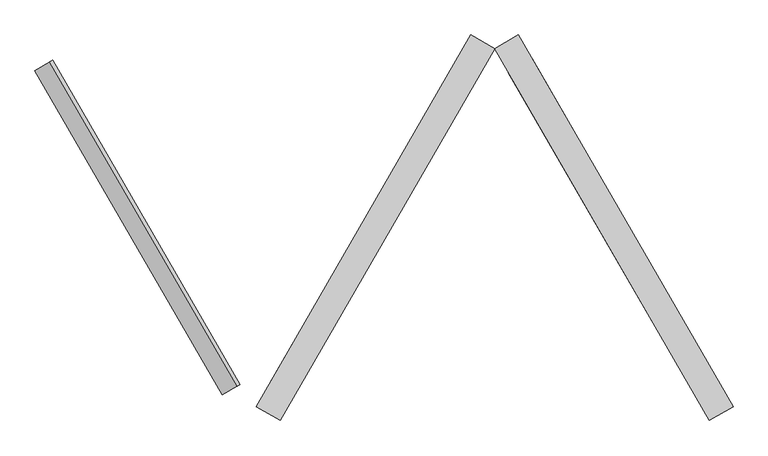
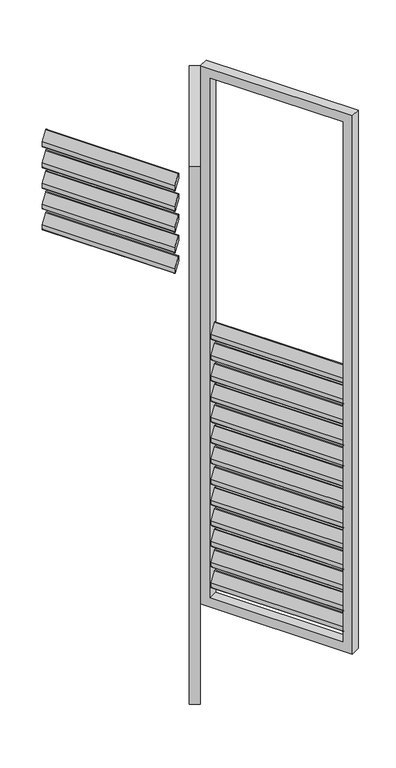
"""IFC4 building model written with IfcOpenShell, lengths in millimetres: proxy geometry, Renson_Amani_Loggia_Paro_Aluminium_Folding : Renson_Amani_Loggia_Paro_Aluminium_Folding."""

from ifc_helpers import new_model, si_unit, point, frame, frame_2d, origin, place, context, project, spatial, polyline, circle_curve, trimmed, segment, composite_curve, outline, extrude, source, transform, mapped, element, save


def generic_models_d351d88b(model_context):
    return source(origin(), model_context, "Body", "SweptSolid", [
        extrude(outline(composite_curve([segment(polyline([(-44.0658831, 0.0), (0.8886405, 0.0), (17.0325667, -10.4839883)]), True, "CONTINUOUS"), segment(trimmed(circle_curve(frame_2d((15.3986496, -13.0)), 3.0), [point((17.0325667, -10.4839883))], [point((15.3986496, -16.0))], False, "CARTESIAN"), True, "CONTINUOUS"), segment(polyline([(15.3986496, -16.0), (-28.6672334, -16.0)]), True, "CONTINUOUS"), segment(trimmed(circle_curve(frame_2d((-28.6672334, -13.0)), 3.0), [point((-28.6672334, -16.0))], [point((-30.3011505, -15.5160117))], False, "CARTESIAN"), True, "CONTINUOUS"), segment(polyline([(-30.3011505, -15.5160117), (-45.6998002, -5.5160117)]), True, "CONTINUOUS"), segment(trimmed(circle_curve(frame_2d((-44.0658831, -3.0)), 3.0), [point((-45.6998002, -5.5160117))], [point((-44.0658831, 0.0))], False, "CARTESIAN"), True, "CONTINUOUS")], self_intersect=False)), frame((992.1094572, 37.7168064, 1227.3359298), z_axis=(-0.5000000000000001, 0.8660254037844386, 0.0), x_axis=(-0.47167124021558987, -0.2723195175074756, -0.8386705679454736)), (0.0, 0.0, 1.0), 545.0),
        extrude(outline(composite_curve([segment(polyline([(-44.0658831, 0.0), (0.8886405, 0.0), (17.0325667, -10.4839883)]), True, "CONTINUOUS"), segment(trimmed(circle_curve(frame_2d((15.3986496, -13.0)), 3.0), [point((17.0325667, -10.4839883))], [point((15.3986496, -16.0))], False, "CARTESIAN"), True, "CONTINUOUS"), segment(polyline([(15.3986496, -16.0), (-28.6672334, -16.0)]), True, "CONTINUOUS"), segment(trimmed(circle_curve(frame_2d((-28.6672334, -13.0)), 3.0), [point((-28.6672334, -16.0))], [point((-30.3011505, -15.5160117))], False, "CARTESIAN"), True, "CONTINUOUS"), segment(polyline([(-30.3011505, -15.5160117), (-45.6998002, -5.5160117)]), True, "CONTINUOUS"), segment(trimmed(circle_curve(frame_2d((-44.0658831, -3.0)), 3.0), [point((-45.6998002, -5.5160117))], [point((-44.0658831, 0.0))], False, "CARTESIAN"), True, "CONTINUOUS")], self_intersect=False)), frame((992.1094572, 37.7168064, 1137.3359298), z_axis=(-0.5000000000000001, 0.8660254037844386, 0.0), x_axis=(-0.47167124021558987, -0.2723195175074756, -0.8386705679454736)), (0.0, 0.0, 1.0), 545.0),
        extrude(outline(composite_curve([segment(polyline([(-44.0658831, 0.0), (0.8886405, 0.0), (17.0325667, -10.4839883)]), True, "CONTINUOUS"), segment(trimmed(circle_curve(frame_2d((15.3986496, -13.0)), 3.0), [point((17.0325667, -10.4839883))], [point((15.3986496, -16.0))], False, "CARTESIAN"), True, "CONTINUOUS"), segment(polyline([(15.3986496, -16.0), (-28.6672334, -16.0)]), True, "CONTINUOUS"), segment(trimmed(circle_curve(frame_2d((-28.6672334, -13.0)), 3.0), [point((-28.6672334, -16.0))], [point((-30.3011505, -15.5160117))], False, "CARTESIAN"), True, "CONTINUOUS"), segment(polyline([(-30.3011505, -15.5160117), (-45.6998002, -5.5160117)]), True, "CONTINUOUS"), segment(trimmed(circle_curve(frame_2d((-44.0658831, -3.0)), 3.0), [point((-45.6998002, -5.5160117))], [point((-44.0658831, 0.0))], False, "CARTESIAN"), True, "CONTINUOUS")], self_intersect=False)), frame((992.1094572, 37.7168064, 1047.3359298), z_axis=(-0.5000000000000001, 0.8660254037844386, 0.0), x_axis=(-0.47167124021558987, -0.2723195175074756, -0.8386705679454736)), (0.0, 0.0, 1.0), 545.0),
        extrude(outline(composite_curve([segment(polyline([(-44.0658831, 0.0), (0.8886405, 0.0), (17.0325667, -10.4839883)]), True, "CONTINUOUS"), segment(trimmed(circle_curve(frame_2d((15.3986496, -13.0)), 3.0), [point((17.0325667, -10.4839883))], [point((15.3986496, -16.0))], False, "CARTESIAN"), True, "CONTINUOUS"), segment(polyline([(15.3986496, -16.0), (-28.6672334, -16.0)]), True, "CONTINUOUS"), segment(trimmed(circle_curve(frame_2d((-28.6672334, -13.0)), 3.0), [point((-28.6672334, -16.0))], [point((-30.3011505, -15.5160117))], False, "CARTESIAN"), True, "CONTINUOUS"), segment(polyline([(-30.3011505, -15.5160117), (-45.6998002, -5.5160117)]), True, "CONTINUOUS"), segment(trimmed(circle_curve(frame_2d((-44.0658831, -3.0)), 3.0), [point((-45.6998002, -5.5160117))], [point((-44.0658831, 0.0))], False, "CARTESIAN"), True, "CONTINUOUS")], self_intersect=False)), frame((992.1094572, 37.7168064, 957.3359298), z_axis=(-0.5000000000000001, 0.8660254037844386, 0.0), x_axis=(-0.47167124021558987, -0.2723195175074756, -0.8386705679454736)), (0.0, 0.0, 1.0), 545.0),
        extrude(outline(composite_curve([segment(polyline([(-44.0658831, 0.0), (0.8886405, 0.0), (17.0325667, -10.4839883)]), True, "CONTINUOUS"), segment(trimmed(circle_curve(frame_2d((15.3986496, -13.0)), 3.0), [point((17.0325667, -10.4839883))], [point((15.3986496, -16.0))], False, "CARTESIAN"), True, "CONTINUOUS"), segment(polyline([(15.3986496, -16.0), (-28.6672334, -16.0)]), True, "CONTINUOUS"), segment(trimmed(circle_curve(frame_2d((-28.6672334, -13.0)), 3.0), [point((-28.6672334, -16.0))], [point((-30.3011505, -15.5160117))], False, "CARTESIAN"), True, "CONTINUOUS"), segment(polyline([(-30.3011505, -15.5160117), (-45.6998002, -5.5160117)]), True, "CONTINUOUS"), segment(trimmed(circle_curve(frame_2d((-44.0658831, -3.0)), 3.0), [point((-45.6998002, -5.5160117))], [point((-44.0658831, 0.0))], False, "CARTESIAN"), True, "CONTINUOUS")], self_intersect=False)), frame((992.1094572, 37.7168064, 867.3359298), z_axis=(-0.5000000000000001, 0.8660254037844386, 0.0), x_axis=(-0.47167124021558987, -0.2723195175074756, -0.8386705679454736)), (0.0, 0.0, 1.0), 545.0),
        extrude(outline(composite_curve([segment(polyline([(-44.0658831, 0.0), (0.8886405, 0.0), (17.0325667, -10.4839883)]), True, "CONTINUOUS"), segment(trimmed(circle_curve(frame_2d((15.3986496, -13.0)), 3.0), [point((17.0325667, -10.4839883))], [point((15.3986496, -16.0))], False, "CARTESIAN"), True, "CONTINUOUS"), segment(polyline([(15.3986496, -16.0), (-28.6672334, -16.0)]), True, "CONTINUOUS"), segment(trimmed(circle_curve(frame_2d((-28.6672334, -13.0)), 3.0), [point((-28.6672334, -16.0))], [point((-30.3011505, -15.5160117))], False, "CARTESIAN"), True, "CONTINUOUS"), segment(polyline([(-30.3011505, -15.5160117), (-45.6998002, -5.5160117)]), True, "CONTINUOUS"), segment(trimmed(circle_curve(frame_2d((-44.0658831, -3.0)), 3.0), [point((-45.6998002, -5.5160117))], [point((-44.0658831, 0.0))], False, "CARTESIAN"), True, "CONTINUOUS")], self_intersect=False)), frame((992.1094572, 37.7168064, 777.3359298), z_axis=(-0.5000000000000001, 0.8660254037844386, 0.0), x_axis=(-0.47167124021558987, -0.2723195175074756, -0.8386705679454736)), (0.0, 0.0, 1.0), 545.0),
        extrude(outline(composite_curve([segment(polyline([(-44.0658831, 0.0), (0.8886405, 0.0), (17.0325667, -10.4839883)]), True, "CONTINUOUS"), segment(trimmed(circle_curve(frame_2d((15.3986496, -13.0)), 3.0), [point((17.0325667, -10.4839883))], [point((15.3986496, -16.0))], False, "CARTESIAN"), True, "CONTINUOUS"), segment(polyline([(15.3986496, -16.0), (-28.6672334, -16.0)]), True, "CONTINUOUS"), segment(trimmed(circle_curve(frame_2d((-28.6672334, -13.0)), 3.0), [point((-28.6672334, -16.0))], [point((-30.3011505, -15.5160117))], False, "CARTESIAN"), True, "CONTINUOUS"), segment(polyline([(-30.3011505, -15.5160117), (-45.6998002, -5.5160117)]), True, "CONTINUOUS"), segment(trimmed(circle_curve(frame_2d((-44.0658831, -3.0)), 3.0), [point((-45.6998002, -5.5160117))], [point((-44.0658831, 0.0))], False, "CARTESIAN"), True, "CONTINUOUS")], self_intersect=False)), frame((992.1094572, 37.7168064, 687.3359298), z_axis=(-0.5000000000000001, 0.8660254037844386, 0.0), x_axis=(-0.47167124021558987, -0.2723195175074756, -0.8386705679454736)), (0.0, 0.0, 1.0), 545.0),
        extrude(outline(composite_curve([segment(polyline([(-44.0658831, 0.0), (0.8886405, 0.0), (17.0325667, -10.4839883)]), True, "CONTINUOUS"), segment(trimmed(circle_curve(frame_2d((15.3986496, -13.0)), 3.0), [point((17.0325667, -10.4839883))], [point((15.3986496, -16.0))], False, "CARTESIAN"), True, "CONTINUOUS"), segment(polyline([(15.3986496, -16.0), (-28.6672334, -16.0)]), True, "CONTINUOUS"), segment(trimmed(circle_curve(frame_2d((-28.6672334, -13.0)), 3.0), [point((-28.6672334, -16.0))], [point((-30.3011505, -15.5160117))], False, "CARTESIAN"), True, "CONTINUOUS"), segment(polyline([(-30.3011505, -15.5160117), (-45.6998002, -5.5160117)]), True, "CONTINUOUS"), segment(trimmed(circle_curve(frame_2d((-44.0658831, -3.0)), 3.0), [point((-45.6998002, -5.5160117))], [point((-44.0658831, 0.0))], False, "CARTESIAN"), True, "CONTINUOUS")], self_intersect=False)), frame((992.1094572, 37.7168064, 597.3359298), z_axis=(-0.5000000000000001, 0.8660254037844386, 0.0), x_axis=(-0.47167124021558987, -0.2723195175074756, -0.8386705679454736)), (0.0, 0.0, 1.0), 545.0),
        extrude(outline(composite_curve([segment(polyline([(-44.0658831, 0.0), (0.8886405, 0.0), (17.0325667, -10.4839883)]), True, "CONTINUOUS"), segment(trimmed(circle_curve(frame_2d((15.3986496, -13.0)), 3.0), [point((17.0325667, -10.4839883))], [point((15.3986496, -16.0))], False, "CARTESIAN"), True, "CONTINUOUS"), segment(polyline([(15.3986496, -16.0), (-28.6672334, -16.0)]), True, "CONTINUOUS"), segment(trimmed(circle_curve(frame_2d((-28.6672334, -13.0)), 3.0), [point((-28.6672334, -16.0))], [point((-30.3011505, -15.5160117))], False, "CARTESIAN"), True, "CONTINUOUS"), segment(polyline([(-30.3011505, -15.5160117), (-45.6998002, -5.5160117)]), True, "CONTINUOUS"), segment(trimmed(circle_curve(frame_2d((-44.0658831, -3.0)), 3.0), [point((-45.6998002, -5.5160117))], [point((-44.0658831, 0.0))], False, "CARTESIAN"), True, "CONTINUOUS")], self_intersect=False)), frame((992.1094572, 37.7168064, 507.3359298), z_axis=(-0.5000000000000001, 0.8660254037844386, 0.0), x_axis=(-0.47167124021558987, -0.2723195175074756, -0.8386705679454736)), (0.0, 0.0, 1.0), 545.0),
        extrude(outline(composite_curve([segment(polyline([(-44.0658831, 0.0), (0.8886405, 0.0), (17.0325667, -10.4839883)]), True, "CONTINUOUS"), segment(trimmed(circle_curve(frame_2d((15.3986496, -13.0)), 3.0), [point((17.0325667, -10.4839883))], [point((15.3986496, -16.0))], False, "CARTESIAN"), True, "CONTINUOUS"), segment(polyline([(15.3986496, -16.0), (-28.6672334, -16.0)]), True, "CONTINUOUS"), segment(trimmed(circle_curve(frame_2d((-28.6672334, -13.0)), 3.0), [point((-28.6672334, -16.0))], [point((-30.3011505, -15.5160117))], False, "CARTESIAN"), True, "CONTINUOUS"), segment(polyline([(-30.3011505, -15.5160117), (-45.6998002, -5.5160117)]), True, "CONTINUOUS"), segment(trimmed(circle_curve(frame_2d((-44.0658831, -3.0)), 3.0), [point((-45.6998002, -5.5160117))], [point((-44.0658831, 0.0))], False, "CARTESIAN"), True, "CONTINUOUS")], self_intersect=False)), frame((992.1094572, 37.7168064, 417.3359298), z_axis=(-0.5000000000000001, 0.8660254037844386, 0.0), x_axis=(-0.47167124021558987, -0.2723195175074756, -0.8386705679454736)), (0.0, 0.0, 1.0), 545.0),
        extrude(outline(composite_curve([segment(polyline([(-44.0658831, 0.0), (0.8886405, 0.0), (17.0325667, -10.4839883)]), True, "CONTINUOUS"), segment(trimmed(circle_curve(frame_2d((15.3986496, -13.0)), 3.0), [point((17.0325667, -10.4839883))], [point((15.3986496, -16.0))], False, "CARTESIAN"), True, "CONTINUOUS"), segment(polyline([(15.3986496, -16.0), (-28.6672334, -16.0)]), True, "CONTINUOUS"), segment(trimmed(circle_curve(frame_2d((-28.6672334, -13.0)), 3.0), [point((-28.6672334, -16.0))], [point((-30.3011505, -15.5160117))], False, "CARTESIAN"), True, "CONTINUOUS"), segment(polyline([(-30.3011505, -15.5160117), (-45.6998002, -5.5160117)]), True, "CONTINUOUS"), segment(trimmed(circle_curve(frame_2d((-44.0658831, -3.0)), 3.0), [point((-45.6998002, -5.5160117))], [point((-44.0658831, 0.0))], False, "CARTESIAN"), True, "CONTINUOUS")], self_intersect=False)), frame((992.1094572, 37.7168064, 327.3359298), z_axis=(-0.5000000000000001, 0.8660254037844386, 0.0), x_axis=(-0.47167124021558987, -0.2723195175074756, -0.8386705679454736)), (0.0, 0.0, 1.0), 545.0),
        extrude(outline(composite_curve([segment(polyline([(-44.0658831, 0.0), (0.8886405, 0.0), (17.0325667, -10.4839883)]), True, "CONTINUOUS"), segment(trimmed(circle_curve(frame_2d((15.3986496, -13.0)), 3.0), [point((17.0325667, -10.4839883))], [point((15.3986496, -16.0))], False, "CARTESIAN"), True, "CONTINUOUS"), segment(polyline([(15.3986496, -16.0), (-28.6672334, -16.0)]), True, "CONTINUOUS"), segment(trimmed(circle_curve(frame_2d((-28.6672334, -13.0)), 3.0), [point((-28.6672334, -16.0))], [point((-30.3011505, -15.5160117))], False, "CARTESIAN"), True, "CONTINUOUS"), segment(polyline([(-30.3011505, -15.5160117), (-45.6998002, -5.5160117)]), True, "CONTINUOUS"), segment(trimmed(circle_curve(frame_2d((-44.0658831, -3.0)), 3.0), [point((-45.6998002, -5.5160117))], [point((-44.0658831, 0.0))], False, "CARTESIAN"), True, "CONTINUOUS")], self_intersect=False)), frame((992.1094572, 37.7168064, 237.3359298), z_axis=(-0.5000000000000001, 0.8660254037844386, 0.0), x_axis=(-0.47167124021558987, -0.2723195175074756, -0.8386705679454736)), (0.0, 0.0, 1.0), 545.0),
        extrude(outline(composite_curve([segment(polyline([(-44.0658831, 0.0), (0.8886405, 0.0), (17.0325667, -10.4839883)]), True, "CONTINUOUS"), segment(trimmed(circle_curve(frame_2d((15.3986496, -13.0)), 3.0), [point((17.0325667, -10.4839883))], [point((15.3986496, -16.0))], False, "CARTESIAN"), True, "CONTINUOUS"), segment(polyline([(15.3986496, -16.0), (-28.6672334, -16.0)]), True, "CONTINUOUS"), segment(trimmed(circle_curve(frame_2d((-28.6672334, -13.0)), 3.0), [point((-28.6672334, -16.0))], [point((-30.3011505, -15.5160117))], False, "CARTESIAN"), True, "CONTINUOUS"), segment(polyline([(-30.3011505, -15.5160117), (-45.6998002, -5.5160117)]), True, "CONTINUOUS"), segment(trimmed(circle_curve(frame_2d((-44.0658831, -3.0)), 3.0), [point((-45.6998002, -5.5160117))], [point((-44.0658831, 0.0))], False, "CARTESIAN"), True, "CONTINUOUS")], self_intersect=False)), frame((992.1094572, 37.7168064, 147.3359298), z_axis=(-0.5000000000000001, 0.8660254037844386, 0.0), x_axis=(-0.47167124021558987, -0.2723195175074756, -0.8386705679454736)), (0.0, 0.0, 1.0), 545.0),
        extrude(outline(polyline([(2300.0, -40.0), (-40.0, -40.0), (-40.0, 585.0), (2300.0, 585.0), (2300.0, -40.0)]), holes=[polyline([(2260.0, 544.9999999), (0.0, 544.9999999), (0.0, 0.0), (2260.0, 0.0), (2260.0, 544.9999999)])]), frame((714.2820323, 506.6248612, 85.0), z_axis=(0.8660254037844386, 0.5000000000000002, 0.0), x_axis=(0.0, 0.0, 1.0)), (0.0, 0.0, 1.0), 40.0),
        extrude(outline(composite_curve([segment(trimmed(circle_curve(frame_2d((44.0658831, -3.0)), 3.0), [point((44.0658831, 0.0))], [point((45.6998002, -5.5160117))], False, "CARTESIAN"), True, "CONTINUOUS"), segment(polyline([(45.6998002, -5.5160117), (30.3011505, -15.5160117)]), True, "CONTINUOUS"), segment(trimmed(circle_curve(frame_2d((28.6672334, -13.0)), 3.0), [point((30.3011505, -15.5160117))], [point((28.6672334, -16.0))], False, "CARTESIAN"), True, "CONTINUOUS"), segment(polyline([(28.6672334, -16.0), (-15.3986496, -16.0)]), True, "CONTINUOUS"), segment(trimmed(circle_curve(frame_2d((-15.3986496, -13.0)), 3.0), [point((-15.3986496, -16.0))], [point((-17.0325667, -10.4839883))], False, "CARTESIAN"), True, "CONTINUOUS"), segment(polyline([(-17.0325667, -10.4839883), (-0.8886405, 0.0), (44.0658831, 0.0)]), True, "CONTINUOUS")], self_intersect=False)), frame((396.4546074, 37.7168064, 2307.3359298), z_axis=(0.5000000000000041, 0.8660254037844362, 0.0), x_axis=(-0.47167124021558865, 0.2723195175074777, 0.8386705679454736)), (0.0, 0.0, 1.0), 545.0),
        extrude(outline(composite_curve([segment(trimmed(circle_curve(frame_2d((44.0658831, -3.0)), 3.0), [point((44.0658831, 0.0))], [point((45.6998002, -5.5160117))], False, "CARTESIAN"), True, "CONTINUOUS"), segment(polyline([(45.6998002, -5.5160117), (30.3011505, -15.5160117)]), True, "CONTINUOUS"), segment(trimmed(circle_curve(frame_2d((28.6672334, -13.0)), 3.0), [point((30.3011505, -15.5160117))], [point((28.6672334, -16.0))], False, "CARTESIAN"), True, "CONTINUOUS"), segment(polyline([(28.6672334, -16.0), (-15.3986496, -16.0)]), True, "CONTINUOUS"), segment(trimmed(circle_curve(frame_2d((-15.3986496, -13.0)), 3.0), [point((-15.3986496, -16.0))], [point((-17.0325667, -10.4839883))], False, "CARTESIAN"), True, "CONTINUOUS"), segment(polyline([(-17.0325667, -10.4839883), (-0.8886405, 0.0), (44.0658831, 0.0)]), True, "CONTINUOUS")], self_intersect=False)), frame((396.4546074, 37.7168064, 2217.3359298), z_axis=(0.5000000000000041, 0.8660254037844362, 0.0), x_axis=(-0.47167124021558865, 0.2723195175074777, 0.8386705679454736)), (0.0, 0.0, 1.0), 545.0),
        extrude(outline(composite_curve([segment(trimmed(circle_curve(frame_2d((44.0658831, -3.0)), 3.0), [point((44.0658831, 0.0))], [point((45.6998002, -5.5160117))], False, "CARTESIAN"), True, "CONTINUOUS"), segment(polyline([(45.6998002, -5.5160117), (30.3011505, -15.5160117)]), True, "CONTINUOUS"), segment(trimmed(circle_curve(frame_2d((28.6672334, -13.0)), 3.0), [point((30.3011505, -15.5160117))], [point((28.6672334, -16.0))], False, "CARTESIAN"), True, "CONTINUOUS"), segment(polyline([(28.6672334, -16.0), (-15.3986496, -16.0)]), True, "CONTINUOUS"), segment(trimmed(circle_curve(frame_2d((-15.3986496, -13.0)), 3.0), [point((-15.3986496, -16.0))], [point((-17.0325667, -10.4839883))], False, "CARTESIAN"), True, "CONTINUOUS"), segment(polyline([(-17.0325667, -10.4839883), (-0.8886405, 0.0), (44.0658831, 0.0)]), True, "CONTINUOUS")], self_intersect=False)), frame((396.4546074, 37.7168064, 2127.3359298), z_axis=(0.5000000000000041, 0.8660254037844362, 0.0), x_axis=(-0.47167124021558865, 0.2723195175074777, 0.8386705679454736)), (0.0, 0.0, 1.0), 545.0),
        extrude(outline(composite_curve([segment(trimmed(circle_curve(frame_2d((44.0658831, -3.0)), 3.0), [point((44.0658831, 0.0))], [point((45.6998002, -5.5160117))], False, "CARTESIAN"), True, "CONTINUOUS"), segment(polyline([(45.6998002, -5.5160117), (30.3011505, -15.5160117)]), True, "CONTINUOUS"), segment(trimmed(circle_curve(frame_2d((28.6672334, -13.0)), 3.0), [point((30.3011505, -15.5160117))], [point((28.6672334, -16.0))], False, "CARTESIAN"), True, "CONTINUOUS"), segment(polyline([(28.6672334, -16.0), (-15.3986496, -16.0)]), True, "CONTINUOUS"), segment(trimmed(circle_curve(frame_2d((-15.3986496, -13.0)), 3.0), [point((-15.3986496, -16.0))], [point((-17.0325667, -10.4839883))], False, "CARTESIAN"), True, "CONTINUOUS"), segment(polyline([(-17.0325667, -10.4839883), (-0.8886405, 0.0), (44.0658831, 0.0)]), True, "CONTINUOUS")], self_intersect=False)), frame((396.4546074, 37.7168064, 2037.3359298), z_axis=(0.5000000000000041, 0.8660254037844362, 0.0), x_axis=(-0.47167124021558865, 0.2723195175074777, 0.8386705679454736)), (0.0, 0.0, 1.0), 545.0),
        extrude(outline(composite_curve([segment(trimmed(circle_curve(frame_2d((44.0658831, -3.0)), 3.0), [point((44.0658831, 0.0))], [point((45.6998002, -5.5160117))], False, "CARTESIAN"), True, "CONTINUOUS"), segment(polyline([(45.6998002, -5.5160117), (30.3011505, -15.5160117)]), True, "CONTINUOUS"), segment(trimmed(circle_curve(frame_2d((28.6672334, -13.0)), 3.0), [point((30.3011505, -15.5160117))], [point((28.6672334, -16.0))], False, "CARTESIAN"), True, "CONTINUOUS"), segment(polyline([(28.6672334, -16.0), (-15.3986496, -16.0)]), True, "CONTINUOUS"), segment(trimmed(circle_curve(frame_2d((-15.3986496, -13.0)), 3.0), [point((-15.3986496, -16.0))], [point((-17.0325667, -10.4839883))], False, "CARTESIAN"), True, "CONTINUOUS"), segment(polyline([(-17.0325667, -10.4839883), (-0.8886405, 0.0), (44.0658831, 0.0)]), True, "CONTINUOUS")], self_intersect=False)), frame((396.4546074, 37.7168064, 1947.3359298), z_axis=(0.5000000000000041, 0.8660254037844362, 0.0), x_axis=(-0.47167124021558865, 0.2723195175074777, 0.8386705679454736)), (0.0, 0.0, 1.0), 545.0),
        extrude(outline(composite_curve([segment(trimmed(circle_curve(frame_2d((44.0658831, -3.0)), 3.0), [point((44.0658831, 0.0))], [point((45.6998002, -5.5160117))], False, "CARTESIAN"), True, "CONTINUOUS"), segment(polyline([(45.6998002, -5.5160117), (30.3011505, -15.5160117)]), True, "CONTINUOUS"), segment(trimmed(circle_curve(frame_2d((28.6672334, -13.0)), 3.0), [point((30.3011505, -15.5160117))], [point((28.6672334, -16.0))], False, "CARTESIAN"), True, "CONTINUOUS"), segment(polyline([(28.6672334, -16.0), (-15.3986496, -16.0)]), True, "CONTINUOUS"), segment(trimmed(circle_curve(frame_2d((-15.3986496, -13.0)), 3.0), [point((-15.3986496, -16.0))], [point((-17.0325667, -10.4839883))], False, "CARTESIAN"), True, "CONTINUOUS"), segment(polyline([(-17.0325667, -10.4839883), (-0.8886405, 0.0), (44.0658831, 0.0)]), True, "CONTINUOUS")], self_intersect=False)), frame((396.4546074, 37.7168064, 1857.3359298), z_axis=(0.5000000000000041, 0.8660254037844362, 0.0), x_axis=(-0.47167124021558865, 0.2723195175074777, 0.8386705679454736)), (0.0, 0.0, 1.0), 545.0),
        extrude(outline(composite_curve([segment(trimmed(circle_curve(frame_2d((44.0658831, -3.0)), 3.0), [point((44.0658831, 0.0))], [point((45.6998002, -5.5160117))], False, "CARTESIAN"), True, "CONTINUOUS"), segment(polyline([(45.6998002, -5.5160117), (30.3011505, -15.5160117)]), True, "CONTINUOUS"), segment(trimmed(circle_curve(frame_2d((28.6672334, -13.0)), 3.0), [point((30.3011505, -15.5160117))], [point((28.6672334, -16.0))], False, "CARTESIAN"), True, "CONTINUOUS"), segment(polyline([(28.6672334, -16.0), (-15.3986496, -16.0)]), True, "CONTINUOUS"), segment(trimmed(circle_curve(frame_2d((-15.3986496, -13.0)), 3.0), [point((-15.3986496, -16.0))], [point((-17.0325667, -10.4839883))], False, "CARTESIAN"), True, "CONTINUOUS"), segment(polyline([(-17.0325667, -10.4839883), (-0.8886405, 0.0), (44.0658831, 0.0)]), True, "CONTINUOUS")], self_intersect=False)), frame((396.4546074, 37.7168064, 1767.3359298), z_axis=(0.5000000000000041, 0.8660254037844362, 0.0), x_axis=(-0.47167124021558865, 0.2723195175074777, 0.8386705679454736)), (0.0, 0.0, 1.0), 545.0),
        extrude(outline(composite_curve([segment(trimmed(circle_curve(frame_2d((44.0658831, -3.0)), 3.0), [point((44.0658831, 0.0))], [point((45.6998002, -5.5160117))], False, "CARTESIAN"), True, "CONTINUOUS"), segment(polyline([(45.6998002, -5.5160117), (30.3011505, -15.5160117)]), True, "CONTINUOUS"), segment(trimmed(circle_curve(frame_2d((28.6672334, -13.0)), 3.0), [point((30.3011505, -15.5160117))], [point((28.6672334, -16.0))], False, "CARTESIAN"), True, "CONTINUOUS"), segment(polyline([(28.6672334, -16.0), (-15.3986496, -16.0)]), True, "CONTINUOUS"), segment(trimmed(circle_curve(frame_2d((-15.3986496, -13.0)), 3.0), [point((-15.3986496, -16.0))], [point((-17.0325667, -10.4839883))], False, "CARTESIAN"), True, "CONTINUOUS"), segment(polyline([(-17.0325667, -10.4839883), (-0.8886405, 0.0), (44.0658831, 0.0)]), True, "CONTINUOUS")], self_intersect=False)), frame((396.4546074, 37.7168064, 1677.3359298), z_axis=(0.5000000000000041, 0.8660254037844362, 0.0), x_axis=(-0.47167124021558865, 0.2723195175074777, 0.8386705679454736)), (0.0, 0.0, 1.0), 545.0),
        extrude(outline(composite_curve([segment(trimmed(circle_curve(frame_2d((44.0658831, -3.0)), 3.0), [point((44.0658831, 0.0))], [point((45.6998002, -5.5160117))], False, "CARTESIAN"), True, "CONTINUOUS"), segment(polyline([(45.6998002, -5.5160117), (30.3011505, -15.5160117)]), True, "CONTINUOUS"), segment(trimmed(circle_curve(frame_2d((28.6672334, -13.0)), 3.0), [point((30.3011505, -15.5160117))], [point((28.6672334, -16.0))], False, "CARTESIAN"), True, "CONTINUOUS"), segment(polyline([(28.6672334, -16.0), (-15.3986496, -16.0)]), True, "CONTINUOUS"), segment(trimmed(circle_curve(frame_2d((-15.3986496, -13.0)), 3.0), [point((-15.3986496, -16.0))], [point((-17.0325667, -10.4839883))], False, "CARTESIAN"), True, "CONTINUOUS"), segment(polyline([(-17.0325667, -10.4839883), (-0.8886405, 0.0), (44.0658831, 0.0)]), True, "CONTINUOUS")], self_intersect=False)), frame((396.4546074, 37.7168064, 1587.3359298), z_axis=(0.5000000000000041, 0.8660254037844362, 0.0), x_axis=(-0.47167124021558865, 0.2723195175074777, 0.8386705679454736)), (0.0, 0.0, 1.0), 545.0),
        extrude(outline(composite_curve([segment(trimmed(circle_curve(frame_2d((44.0658831, -3.0)), 3.0), [point((44.0658831, 0.0))], [point((45.6998002, -5.5160117))], False, "CARTESIAN"), True, "CONTINUOUS"), segment(polyline([(45.6998002, -5.5160117), (30.3011505, -15.5160117)]), True, "CONTINUOUS"), segment(trimmed(circle_curve(frame_2d((28.6672334, -13.0)), 3.0), [point((30.3011505, -15.5160117))], [point((28.6672334, -16.0))], False, "CARTESIAN"), True, "CONTINUOUS"), segment(polyline([(28.6672334, -16.0), (-15.3986496, -16.0)]), True, "CONTINUOUS"), segment(trimmed(circle_curve(frame_2d((-15.3986496, -13.0)), 3.0), [point((-15.3986496, -16.0))], [point((-17.0325667, -10.4839883))], False, "CARTESIAN"), True, "CONTINUOUS"), segment(polyline([(-17.0325667, -10.4839883), (-0.8886405, 0.0), (44.0658831, 0.0)]), True, "CONTINUOUS")], self_intersect=False)), frame((396.4546074, 37.7168064, 1497.3359298), z_axis=(0.5000000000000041, 0.8660254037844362, 0.0), x_axis=(-0.47167124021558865, 0.2723195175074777, 0.8386705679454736)), (0.0, 0.0, 1.0), 545.0),
        extrude(outline(composite_curve([segment(trimmed(circle_curve(frame_2d((44.0658831, -3.0)), 3.0), [point((44.0658831, 0.0))], [point((45.6998002, -5.5160117))], False, "CARTESIAN"), True, "CONTINUOUS"), segment(polyline([(45.6998002, -5.5160117), (30.3011505, -15.5160117)]), True, "CONTINUOUS"), segment(trimmed(circle_curve(frame_2d((28.6672334, -13.0)), 3.0), [point((30.3011505, -15.5160117))], [point((28.6672334, -16.0))], False, "CARTESIAN"), True, "CONTINUOUS"), segment(polyline([(28.6672334, -16.0), (-15.3986496, -16.0)]), True, "CONTINUOUS"), segment(trimmed(circle_curve(frame_2d((-15.3986496, -13.0)), 3.0), [point((-15.3986496, -16.0))], [point((-17.0325667, -10.4839883))], False, "CARTESIAN"), True, "CONTINUOUS"), segment(polyline([(-17.0325667, -10.4839883), (-0.8886405, 0.0), (44.0658831, 0.0)]), True, "CONTINUOUS")], self_intersect=False)), frame((396.4546074, 37.7168064, 1407.3359298), z_axis=(0.5000000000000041, 0.8660254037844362, 0.0), x_axis=(-0.47167124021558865, 0.2723195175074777, 0.8386705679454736)), (0.0, 0.0, 1.0), 545.0),
        extrude(outline(composite_curve([segment(trimmed(circle_curve(frame_2d((44.0658831, -3.0)), 3.0), [point((44.0658831, 0.0))], [point((45.6998002, -5.5160117))], False, "CARTESIAN"), True, "CONTINUOUS"), segment(polyline([(45.6998002, -5.5160117), (30.3011505, -15.5160117)]), True, "CONTINUOUS"), segment(trimmed(circle_curve(frame_2d((28.6672334, -13.0)), 3.0), [point((30.3011505, -15.5160117))], [point((28.6672334, -16.0))], False, "CARTESIAN"), True, "CONTINUOUS"), segment(polyline([(28.6672334, -16.0), (-15.3986496, -16.0)]), True, "CONTINUOUS"), segment(trimmed(circle_curve(frame_2d((-15.3986496, -13.0)), 3.0), [point((-15.3986496, -16.0))], [point((-17.0325667, -10.4839883))], False, "CARTESIAN"), True, "CONTINUOUS"), segment(polyline([(-17.0325667, -10.4839883), (-0.8886405, 0.0), (44.0658831, 0.0)]), True, "CONTINUOUS")], self_intersect=False)), frame((396.4546074, 37.7168064, 1317.3359298), z_axis=(0.5000000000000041, 0.8660254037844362, 0.0), x_axis=(-0.47167124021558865, 0.2723195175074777, 0.8386705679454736)), (0.0, 0.0, 1.0), 545.0),
        extrude(outline(composite_curve([segment(trimmed(circle_curve(frame_2d((44.0658831, -3.0)), 3.0), [point((44.0658831, 0.0))], [point((45.6998002, -5.5160117))], False, "CARTESIAN"), True, "CONTINUOUS"), segment(polyline([(45.6998002, -5.5160117), (30.3011505, -15.5160117)]), True, "CONTINUOUS"), segment(trimmed(circle_curve(frame_2d((28.6672334, -13.0)), 3.0), [point((30.3011505, -15.5160117))], [point((28.6672334, -16.0))], False, "CARTESIAN"), True, "CONTINUOUS"), segment(polyline([(28.6672334, -16.0), (-15.3986496, -16.0)]), True, "CONTINUOUS"), segment(trimmed(circle_curve(frame_2d((-15.3986496, -13.0)), 3.0), [point((-15.3986496, -16.0))], [point((-17.0325667, -10.4839883))], False, "CARTESIAN"), True, "CONTINUOUS"), segment(polyline([(-17.0325667, -10.4839883), (-0.8886405, 0.0), (44.0658831, 0.0)]), True, "CONTINUOUS")], self_intersect=False)), frame((396.4546074, 37.7168064, 1227.3359298), z_axis=(0.5000000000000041, 0.8660254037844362, 0.0), x_axis=(-0.47167124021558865, 0.2723195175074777, 0.8386705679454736)), (0.0, 0.0, 1.0), 545.0),
        extrude(outline(composite_curve([segment(trimmed(circle_curve(frame_2d((44.0658831, -3.0)), 3.0), [point((44.0658831, 0.0))], [point((45.6998002, -5.5160117))], False, "CARTESIAN"), True, "CONTINUOUS"), segment(polyline([(45.6998002, -5.5160117), (30.3011505, -15.5160117)]), True, "CONTINUOUS"), segment(trimmed(circle_curve(frame_2d((28.6672334, -13.0)), 3.0), [point((30.3011505, -15.5160117))], [point((28.6672334, -16.0))], False, "CARTESIAN"), True, "CONTINUOUS"), segment(polyline([(28.6672334, -16.0), (-15.3986496, -16.0)]), True, "CONTINUOUS"), segment(trimmed(circle_curve(frame_2d((-15.3986496, -13.0)), 3.0), [point((-15.3986496, -16.0))], [point((-17.0325667, -10.4839883))], False, "CARTESIAN"), True, "CONTINUOUS"), segment(polyline([(-17.0325667, -10.4839883), (-0.8886405, 0.0), (44.0658831, 0.0)]), True, "CONTINUOUS")], self_intersect=False)), frame((396.4546074, 37.7168064, 1137.3359298), z_axis=(0.5000000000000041, 0.8660254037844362, 0.0), x_axis=(-0.47167124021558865, 0.2723195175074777, 0.8386705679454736)), (0.0, 0.0, 1.0), 545.0),
        extrude(outline(composite_curve([segment(trimmed(circle_curve(frame_2d((44.0658831, -3.0)), 3.0), [point((44.0658831, 0.0))], [point((45.6998002, -5.5160117))], False, "CARTESIAN"), True, "CONTINUOUS"), segment(polyline([(45.6998002, -5.5160117), (30.3011505, -15.5160117)]), True, "CONTINUOUS"), segment(trimmed(circle_curve(frame_2d((28.6672334, -13.0)), 3.0), [point((30.3011505, -15.5160117))], [point((28.6672334, -16.0))], False, "CARTESIAN"), True, "CONTINUOUS"), segment(polyline([(28.6672334, -16.0), (-15.3986496, -16.0)]), True, "CONTINUOUS"), segment(trimmed(circle_curve(frame_2d((-15.3986496, -13.0)), 3.0), [point((-15.3986496, -16.0))], [point((-17.0325667, -10.4839883))], False, "CARTESIAN"), True, "CONTINUOUS"), segment(polyline([(-17.0325667, -10.4839883), (-0.8886405, 0.0), (44.0658831, 0.0)]), True, "CONTINUOUS")], self_intersect=False)), frame((396.4546074, 37.7168064, 1047.3359298), z_axis=(0.5000000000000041, 0.8660254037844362, 0.0), x_axis=(-0.47167124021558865, 0.2723195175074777, 0.8386705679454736)), (0.0, 0.0, 1.0), 545.0),
        extrude(outline(composite_curve([segment(trimmed(circle_curve(frame_2d((44.0658831, -3.0)), 3.0), [point((44.0658831, 0.0))], [point((45.6998002, -5.5160117))], False, "CARTESIAN"), True, "CONTINUOUS"), segment(polyline([(45.6998002, -5.5160117), (30.3011505, -15.5160117)]), True, "CONTINUOUS"), segment(trimmed(circle_curve(frame_2d((28.6672334, -13.0)), 3.0), [point((30.3011505, -15.5160117))], [point((28.6672334, -16.0))], False, "CARTESIAN"), True, "CONTINUOUS"), segment(polyline([(28.6672334, -16.0), (-15.3986496, -16.0)]), True, "CONTINUOUS"), segment(trimmed(circle_curve(frame_2d((-15.3986496, -13.0)), 3.0), [point((-15.3986496, -16.0))], [point((-17.0325667, -10.4839883))], False, "CARTESIAN"), True, "CONTINUOUS"), segment(polyline([(-17.0325667, -10.4839883), (-0.8886405, 0.0), (44.0658831, 0.0)]), True, "CONTINUOUS")], self_intersect=False)), frame((396.4546074, 37.7168064, 957.3359298), z_axis=(0.5000000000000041, 0.8660254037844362, 0.0), x_axis=(-0.47167124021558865, 0.2723195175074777, 0.8386705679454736)), (0.0, 0.0, 1.0), 545.0),
        extrude(outline(composite_curve([segment(trimmed(circle_curve(frame_2d((44.0658831, -3.0)), 3.0), [point((44.0658831, 0.0))], [point((45.6998002, -5.5160117))], False, "CARTESIAN"), True, "CONTINUOUS"), segment(polyline([(45.6998002, -5.5160117), (30.3011505, -15.5160117)]), True, "CONTINUOUS"), segment(trimmed(circle_curve(frame_2d((28.6672334, -13.0)), 3.0), [point((30.3011505, -15.5160117))], [point((28.6672334, -16.0))], False, "CARTESIAN"), True, "CONTINUOUS"), segment(polyline([(28.6672334, -16.0), (-15.3986496, -16.0)]), True, "CONTINUOUS"), segment(trimmed(circle_curve(frame_2d((-15.3986496, -13.0)), 3.0), [point((-15.3986496, -16.0))], [point((-17.0325667, -10.4839883))], False, "CARTESIAN"), True, "CONTINUOUS"), segment(polyline([(-17.0325667, -10.4839883), (-0.8886405, 0.0), (44.0658831, 0.0)]), True, "CONTINUOUS")], self_intersect=False)), frame((396.4546074, 37.7168064, 867.3359298), z_axis=(0.5000000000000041, 0.8660254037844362, 0.0), x_axis=(-0.47167124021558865, 0.2723195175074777, 0.8386705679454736)), (0.0, 0.0, 1.0), 545.0),
        extrude(outline(composite_curve([segment(trimmed(circle_curve(frame_2d((44.0658831, -3.0)), 3.0), [point((44.0658831, 0.0))], [point((45.6998002, -5.5160117))], False, "CARTESIAN"), True, "CONTINUOUS"), segment(polyline([(45.6998002, -5.5160117), (30.3011505, -15.5160117)]), True, "CONTINUOUS"), segment(trimmed(circle_curve(frame_2d((28.6672334, -13.0)), 3.0), [point((30.3011505, -15.5160117))], [point((28.6672334, -16.0))], False, "CARTESIAN"), True, "CONTINUOUS"), segment(polyline([(28.6672334, -16.0), (-15.3986496, -16.0)]), True, "CONTINUOUS"), segment(trimmed(circle_curve(frame_2d((-15.3986496, -13.0)), 3.0), [point((-15.3986496, -16.0))], [point((-17.0325667, -10.4839883))], False, "CARTESIAN"), True, "CONTINUOUS"), segment(polyline([(-17.0325667, -10.4839883), (-0.8886405, 0.0), (44.0658831, 0.0)]), True, "CONTINUOUS")], self_intersect=False)), frame((396.4546074, 37.7168064, 777.3359298), z_axis=(0.5000000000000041, 0.8660254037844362, 0.0), x_axis=(-0.47167124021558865, 0.2723195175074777, 0.8386705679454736)), (0.0, 0.0, 1.0), 545.0),
        extrude(outline(composite_curve([segment(trimmed(circle_curve(frame_2d((44.0658831, -3.0)), 3.0), [point((44.0658831, 0.0))], [point((45.6998002, -5.5160117))], False, "CARTESIAN"), True, "CONTINUOUS"), segment(polyline([(45.6998002, -5.5160117), (30.3011505, -15.5160117)]), True, "CONTINUOUS"), segment(trimmed(circle_curve(frame_2d((28.6672334, -13.0)), 3.0), [point((30.3011505, -15.5160117))], [point((28.6672334, -16.0))], False, "CARTESIAN"), True, "CONTINUOUS"), segment(polyline([(28.6672334, -16.0), (-15.3986496, -16.0)]), True, "CONTINUOUS"), segment(trimmed(circle_curve(frame_2d((-15.3986496, -13.0)), 3.0), [point((-15.3986496, -16.0))], [point((-17.0325667, -10.4839883))], False, "CARTESIAN"), True, "CONTINUOUS"), segment(polyline([(-17.0325667, -10.4839883), (-0.8886405, 0.0), (44.0658831, 0.0)]), True, "CONTINUOUS")], self_intersect=False)), frame((396.4546074, 37.7168064, 687.3359298), z_axis=(0.5000000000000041, 0.8660254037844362, 0.0), x_axis=(-0.47167124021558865, 0.2723195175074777, 0.8386705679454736)), (0.0, 0.0, 1.0), 545.0),
        extrude(outline(composite_curve([segment(trimmed(circle_curve(frame_2d((44.0658831, -3.0)), 3.0), [point((44.0658831, 0.0))], [point((45.6998002, -5.5160117))], False, "CARTESIAN"), True, "CONTINUOUS"), segment(polyline([(45.6998002, -5.5160117), (30.3011505, -15.5160117)]), True, "CONTINUOUS"), segment(trimmed(circle_curve(frame_2d((28.6672334, -13.0)), 3.0), [point((30.3011505, -15.5160117))], [point((28.6672334, -16.0))], False, "CARTESIAN"), True, "CONTINUOUS"), segment(polyline([(28.6672334, -16.0), (-15.3986496, -16.0)]), True, "CONTINUOUS"), segment(trimmed(circle_curve(frame_2d((-15.3986496, -13.0)), 3.0), [point((-15.3986496, -16.0))], [point((-17.0325667, -10.4839883))], False, "CARTESIAN"), True, "CONTINUOUS"), segment(polyline([(-17.0325667, -10.4839883), (-0.8886405, 0.0), (44.0658831, 0.0)]), True, "CONTINUOUS")], self_intersect=False)), frame((396.4546074, 37.7168064, 597.3359298), z_axis=(0.5000000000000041, 0.8660254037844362, 0.0), x_axis=(-0.47167124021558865, 0.2723195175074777, 0.8386705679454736)), (0.0, 0.0, 1.0), 545.0),
        extrude(outline(composite_curve([segment(trimmed(circle_curve(frame_2d((44.0658831, -3.0)), 3.0), [point((44.0658831, 0.0))], [point((45.6998002, -5.5160117))], False, "CARTESIAN"), True, "CONTINUOUS"), segment(polyline([(45.6998002, -5.5160117), (30.3011505, -15.5160117)]), True, "CONTINUOUS"), segment(trimmed(circle_curve(frame_2d((28.6672334, -13.0)), 3.0), [point((30.3011505, -15.5160117))], [point((28.6672334, -16.0))], False, "CARTESIAN"), True, "CONTINUOUS"), segment(polyline([(28.6672334, -16.0), (-15.3986496, -16.0)]), True, "CONTINUOUS"), segment(trimmed(circle_curve(frame_2d((-15.3986496, -13.0)), 3.0), [point((-15.3986496, -16.0))], [point((-17.0325667, -10.4839883))], False, "CARTESIAN"), True, "CONTINUOUS"), segment(polyline([(-17.0325667, -10.4839883), (-0.8886405, 0.0), (44.0658831, 0.0)]), True, "CONTINUOUS")], self_intersect=False)), frame((396.4546074, 37.7168064, 507.3359298), z_axis=(0.5000000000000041, 0.8660254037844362, 0.0), x_axis=(-0.47167124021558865, 0.2723195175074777, 0.8386705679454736)), (0.0, 0.0, 1.0), 545.0),
        extrude(outline(composite_curve([segment(trimmed(circle_curve(frame_2d((44.0658831, -3.0)), 3.0), [point((44.0658831, 0.0))], [point((45.6998002, -5.5160117))], False, "CARTESIAN"), True, "CONTINUOUS"), segment(polyline([(45.6998002, -5.5160117), (30.3011505, -15.5160117)]), True, "CONTINUOUS"), segment(trimmed(circle_curve(frame_2d((28.6672334, -13.0)), 3.0), [point((30.3011505, -15.5160117))], [point((28.6672334, -16.0))], False, "CARTESIAN"), True, "CONTINUOUS"), segment(polyline([(28.6672334, -16.0), (-15.3986496, -16.0)]), True, "CONTINUOUS"), segment(trimmed(circle_curve(frame_2d((-15.3986496, -13.0)), 3.0), [point((-15.3986496, -16.0))], [point((-17.0325667, -10.4839883))], False, "CARTESIAN"), True, "CONTINUOUS"), segment(polyline([(-17.0325667, -10.4839883), (-0.8886405, 0.0), (44.0658831, 0.0)]), True, "CONTINUOUS")], self_intersect=False)), frame((396.4546074, 37.7168064, 417.3359298), z_axis=(0.5000000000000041, 0.8660254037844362, 0.0), x_axis=(-0.47167124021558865, 0.2723195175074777, 0.8386705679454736)), (0.0, 0.0, 1.0), 545.0),
        extrude(outline(composite_curve([segment(trimmed(circle_curve(frame_2d((44.0658831, -3.0)), 3.0), [point((44.0658831, 0.0))], [point((45.6998002, -5.5160117))], False, "CARTESIAN"), True, "CONTINUOUS"), segment(polyline([(45.6998002, -5.5160117), (30.3011505, -15.5160117)]), True, "CONTINUOUS"), segment(trimmed(circle_curve(frame_2d((28.6672334, -13.0)), 3.0), [point((30.3011505, -15.5160117))], [point((28.6672334, -16.0))], False, "CARTESIAN"), True, "CONTINUOUS"), segment(polyline([(28.6672334, -16.0), (-15.3986496, -16.0)]), True, "CONTINUOUS"), segment(trimmed(circle_curve(frame_2d((-15.3986496, -13.0)), 3.0), [point((-15.3986496, -16.0))], [point((-17.0325667, -10.4839883))], False, "CARTESIAN"), True, "CONTINUOUS"), segment(polyline([(-17.0325667, -10.4839883), (-0.8886405, 0.0), (44.0658831, 0.0)]), True, "CONTINUOUS")], self_intersect=False)), frame((396.4546074, 37.7168064, 327.3359298), z_axis=(0.5000000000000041, 0.8660254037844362, 0.0), x_axis=(-0.47167124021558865, 0.2723195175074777, 0.8386705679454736)), (0.0, 0.0, 1.0), 545.0),
        extrude(outline(composite_curve([segment(trimmed(circle_curve(frame_2d((44.0658831, -3.0)), 3.0), [point((44.0658831, 0.0))], [point((45.6998002, -5.5160117))], False, "CARTESIAN"), True, "CONTINUOUS"), segment(polyline([(45.6998002, -5.5160117), (30.3011505, -15.5160117)]), True, "CONTINUOUS"), segment(trimmed(circle_curve(frame_2d((28.6672334, -13.0)), 3.0), [point((30.3011505, -15.5160117))], [point((28.6672334, -16.0))], False, "CARTESIAN"), True, "CONTINUOUS"), segment(polyline([(28.6672334, -16.0), (-15.3986496, -16.0)]), True, "CONTINUOUS"), segment(trimmed(circle_curve(frame_2d((-15.3986496, -13.0)), 3.0), [point((-15.3986496, -16.0))], [point((-17.0325667, -10.4839883))], False, "CARTESIAN"), True, "CONTINUOUS"), segment(polyline([(-17.0325667, -10.4839883), (-0.8886405, 0.0), (44.0658831, 0.0)]), True, "CONTINUOUS")], self_intersect=False)), frame((396.4546074, 37.7168064, 237.3359298), z_axis=(0.5000000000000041, 0.8660254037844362, 0.0), x_axis=(-0.47167124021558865, 0.2723195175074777, 0.8386705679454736)), (0.0, 0.0, 1.0), 545.0),
        extrude(outline(composite_curve([segment(trimmed(circle_curve(frame_2d((44.0658831, -3.0)), 3.0), [point((44.0658831, 0.0))], [point((45.6998002, -5.5160117))], False, "CARTESIAN"), True, "CONTINUOUS"), segment(polyline([(45.6998002, -5.5160117), (30.3011505, -15.5160117)]), True, "CONTINUOUS"), segment(trimmed(circle_curve(frame_2d((28.6672334, -13.0)), 3.0), [point((30.3011505, -15.5160117))], [point((28.6672334, -16.0))], False, "CARTESIAN"), True, "CONTINUOUS"), segment(polyline([(28.6672334, -16.0), (-15.3986496, -16.0)]), True, "CONTINUOUS"), segment(trimmed(circle_curve(frame_2d((-15.3986496, -13.0)), 3.0), [point((-15.3986496, -16.0))], [point((-17.0325667, -10.4839883))], False, "CARTESIAN"), True, "CONTINUOUS"), segment(polyline([(-17.0325667, -10.4839883), (-0.8886405, 0.0), (44.0658831, 0.0)]), True, "CONTINUOUS")], self_intersect=False)), frame((396.4546074, 37.7168064, 147.3359298), z_axis=(0.5000000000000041, 0.8660254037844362, 0.0), x_axis=(-0.47167124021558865, 0.2723195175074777, 0.8386705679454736)), (0.0, 0.0, 1.0), 545.0),
        extrude(outline(polyline([(2300.0, -40.0), (-40.0, -40.0), (-40.0, 585.0), (2300.0, 585.0), (2300.0, -40.0)]), holes=[polyline([(2260.0, 544.9999999), (0.0, 544.9999999), (0.0, 0.0), (2260.0, 0.0), (2260.0, 544.9999999)])]), frame((401.7820323, 34.6410162, 85.0), z_axis=(-0.8660254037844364, 0.5000000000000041, 0.0), x_axis=(0.0, 0.0, 1.0)), (0.0, 0.0, 1.0), 40.0),
        extrude(outline(composite_curve([segment(polyline([(-44.0658831, 0.0), (0.8886405, 0.0), (17.0325667, -10.4839883)]), True, "CONTINUOUS"), segment(trimmed(circle_curve(frame_2d((15.3986496, -13.0)), 3.0), [point((17.0325667, -10.4839883))], [point((15.3986496, -16.0))], False, "CARTESIAN"), True, "CONTINUOUS"), segment(polyline([(15.3986496, -16.0), (-28.6672334, -16.0)]), True, "CONTINUOUS"), segment(trimmed(circle_curve(frame_2d((-28.6672334, -13.0)), 3.0), [point((-28.6672334, -16.0))], [point((-30.3011505, -15.5160117))], False, "CARTESIAN"), True, "CONTINUOUS"), segment(polyline([(-30.3011505, -15.5160117), (-45.6998002, -5.5160117)]), True, "CONTINUOUS"), segment(trimmed(circle_curve(frame_2d((-44.0658831, -3.0)), 3.0), [point((-45.6998002, -5.5160117))], [point((-44.0658831, 0.0))], False, "CARTESIAN"), True, "CONTINUOUS")], self_intersect=False)), frame((297.8274249, 37.7168064, 2307.3359298), z_axis=(-0.5000000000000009, 0.8660254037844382, 0.0), x_axis=(-0.47167124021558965, -0.27231951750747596, -0.8386705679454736)), (0.0, 0.0, 1.0), 545.0),
        extrude(outline(composite_curve([segment(polyline([(-44.0658831, 0.0), (0.8886405, 0.0), (17.0325667, -10.4839883)]), True, "CONTINUOUS"), segment(trimmed(circle_curve(frame_2d((15.3986496, -13.0)), 3.0), [point((17.0325667, -10.4839883))], [point((15.3986496, -16.0))], False, "CARTESIAN"), True, "CONTINUOUS"), segment(polyline([(15.3986496, -16.0), (-28.6672334, -16.0)]), True, "CONTINUOUS"), segment(trimmed(circle_curve(frame_2d((-28.6672334, -13.0)), 3.0), [point((-28.6672334, -16.0))], [point((-30.3011505, -15.5160117))], False, "CARTESIAN"), True, "CONTINUOUS"), segment(polyline([(-30.3011505, -15.5160117), (-45.6998002, -5.5160117)]), True, "CONTINUOUS"), segment(trimmed(circle_curve(frame_2d((-44.0658831, -3.0)), 3.0), [point((-45.6998002, -5.5160117))], [point((-44.0658831, 0.0))], False, "CARTESIAN"), True, "CONTINUOUS")], self_intersect=False)), frame((297.8274249, 37.7168064, 2217.3359298), z_axis=(-0.5000000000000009, 0.8660254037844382, 0.0), x_axis=(-0.47167124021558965, -0.27231951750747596, -0.8386705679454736)), (0.0, 0.0, 1.0), 545.0),
        extrude(outline(composite_curve([segment(polyline([(-44.0658831, 0.0), (0.8886405, 0.0), (17.0325667, -10.4839883)]), True, "CONTINUOUS"), segment(trimmed(circle_curve(frame_2d((15.3986496, -13.0)), 3.0), [point((17.0325667, -10.4839883))], [point((15.3986496, -16.0))], False, "CARTESIAN"), True, "CONTINUOUS"), segment(polyline([(15.3986496, -16.0), (-28.6672334, -16.0)]), True, "CONTINUOUS"), segment(trimmed(circle_curve(frame_2d((-28.6672334, -13.0)), 3.0), [point((-28.6672334, -16.0))], [point((-30.3011505, -15.5160117))], False, "CARTESIAN"), True, "CONTINUOUS"), segment(polyline([(-30.3011505, -15.5160117), (-45.6998002, -5.5160117)]), True, "CONTINUOUS"), segment(trimmed(circle_curve(frame_2d((-44.0658831, -3.0)), 3.0), [point((-45.6998002, -5.5160117))], [point((-44.0658831, 0.0))], False, "CARTESIAN"), True, "CONTINUOUS")], self_intersect=False)), frame((297.8274249, 37.7168064, 2127.3359298), z_axis=(-0.5000000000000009, 0.8660254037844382, 0.0), x_axis=(-0.47167124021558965, -0.27231951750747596, -0.8386705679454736)), (0.0, 0.0, 1.0), 545.0),
        extrude(outline(composite_curve([segment(polyline([(-44.0658831, 0.0), (0.8886405, 0.0), (17.0325667, -10.4839883)]), True, "CONTINUOUS"), segment(trimmed(circle_curve(frame_2d((15.3986496, -13.0)), 3.0), [point((17.0325667, -10.4839883))], [point((15.3986496, -16.0))], False, "CARTESIAN"), True, "CONTINUOUS"), segment(polyline([(15.3986496, -16.0), (-28.6672334, -16.0)]), True, "CONTINUOUS"), segment(trimmed(circle_curve(frame_2d((-28.6672334, -13.0)), 3.0), [point((-28.6672334, -16.0))], [point((-30.3011505, -15.5160117))], False, "CARTESIAN"), True, "CONTINUOUS"), segment(polyline([(-30.3011505, -15.5160117), (-45.6998002, -5.5160117)]), True, "CONTINUOUS"), segment(trimmed(circle_curve(frame_2d((-44.0658831, -3.0)), 3.0), [point((-45.6998002, -5.5160117))], [point((-44.0658831, 0.0))], False, "CARTESIAN"), True, "CONTINUOUS")], self_intersect=False)), frame((297.8274249, 37.7168064, 2037.3359298), z_axis=(-0.5000000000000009, 0.8660254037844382, 0.0), x_axis=(-0.47167124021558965, -0.27231951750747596, -0.8386705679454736)), (0.0, 0.0, 1.0), 545.0),
        extrude(outline(composite_curve([segment(polyline([(-44.0658831, 0.0), (0.8886405, 0.0), (17.0325667, -10.4839883)]), True, "CONTINUOUS"), segment(trimmed(circle_curve(frame_2d((15.3986496, -13.0)), 3.0), [point((17.0325667, -10.4839883))], [point((15.3986496, -16.0))], False, "CARTESIAN"), True, "CONTINUOUS"), segment(polyline([(15.3986496, -16.0), (-28.6672334, -16.0)]), True, "CONTINUOUS"), segment(trimmed(circle_curve(frame_2d((-28.6672334, -13.0)), 3.0), [point((-28.6672334, -16.0))], [point((-30.3011505, -15.5160117))], False, "CARTESIAN"), True, "CONTINUOUS"), segment(polyline([(-30.3011505, -15.5160117), (-45.6998002, -5.5160117)]), True, "CONTINUOUS"), segment(trimmed(circle_curve(frame_2d((-44.0658831, -3.0)), 3.0), [point((-45.6998002, -5.5160117))], [point((-44.0658831, 0.0))], False, "CARTESIAN"), True, "CONTINUOUS")], self_intersect=False)), frame((297.8274249, 37.7168064, 1947.3359298), z_axis=(-0.5000000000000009, 0.8660254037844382, 0.0), x_axis=(-0.47167124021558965, -0.27231951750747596, -0.8386705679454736)), (0.0, 0.0, 1.0), 545.0),
    ])


if __name__ == "__main__":
    model = new_model("IFC4")
    model_context = context("Model", 3, world=origin())
    ifc_project = project(units=[si_unit("LENGTHUNIT", "METRE", prefix="MILLI")], contexts=[model_context])
    site = spatial("IfcSite", under=ifc_project)
    building = spatial("IfcBuilding", under=site)
    placement = place(None, origin())
    generic_models_shape = generic_models_d351d88b(model_context)
    element("IfcBuildingElementProxy", 1, Name="Renson_Amani_Loggia_Paro_Aluminium_Folding : Renson_Amani_Loggia_Paro_Aluminium_Folding", ObjectType="Renson_Amani_Loggia_Paro_Aluminium_Folding : Renson_Amani_Loggia_Paro_Aluminium_Folding", at=placement, inside=building, context=model_context, shape_type="MappedRepresentation", body=[
        mapped(generic_models_shape, transform((0.0, 0.0, 0.0), x_axis=(1.0, 0.0, 0.0), y_axis=(0.0, 1.0, 0.0), z_axis=(0.0, 0.0, 1.0))),
    ])
    save(model, "model.ifc")
